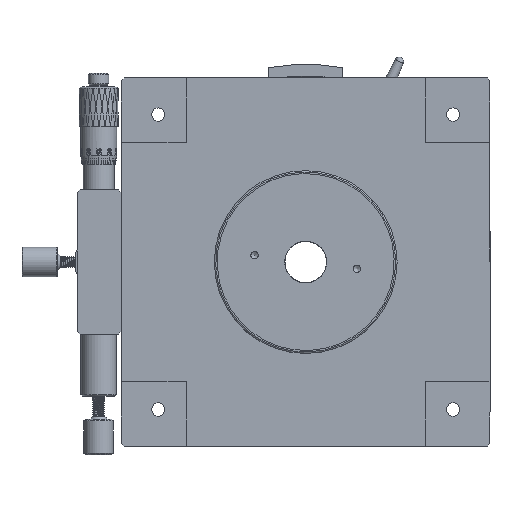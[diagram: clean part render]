
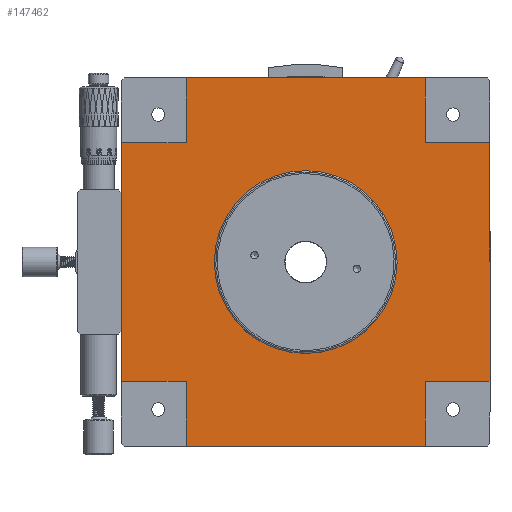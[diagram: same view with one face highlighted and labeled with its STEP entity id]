
A CAD part, front view. The second image highlights one B-rep face of the part: STEP entity #147462.
In plain terms, the highlighted planar face has unit normal (0, -1, 0).
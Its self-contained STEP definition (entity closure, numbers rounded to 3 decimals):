
#4498 = CARTESIAN_POINT ( 'NONE',  ( 0., 0.3, -31. ) ) ;
#4693 = DIRECTION ( 'NONE',  ( 0., 0., -1. ) ) ;
#5315 = VERTEX_POINT ( 'NONE', #138982 ) ;
#5565 = EDGE_LOOP ( 'NONE', ( #57266 ) ) ;
#6232 = ORIENTED_EDGE ( 'NONE', *, *, #109937, .T. ) ;
#6816 = VERTEX_POINT ( 'NONE', #48247 ) ;
#8381 = CARTESIAN_POINT ( 'NONE',  ( 0., 0.3, 0. ) ) ;
#8727 = EDGE_CURVE ( 'NONE', #65747, #97991, #74453, .T. ) ;
#8753 = CARTESIAN_POINT ( 'NONE',  ( -40.5, 0.3, -62.5 ) ) ;
#10130 = LINE ( 'NONE', #71657, #66709 ) ;
#11847 = CARTESIAN_POINT ( 'NONE',  ( 40.5, 0.3, -40.5 ) ) ;
#12995 = ORIENTED_EDGE ( 'NONE', *, *, #84332, .F. ) ;
#13456 = EDGE_CURVE ( 'NONE', #65747, #33867, #54285, .T. ) ;
#13727 = DIRECTION ( 'NONE',  ( -1., 0., 0. ) ) ;
#17344 = VECTOR ( 'NONE', #90067, 1000. ) ;
#19937 = DIRECTION ( 'NONE',  ( 0., 0., 1. ) ) ;
#21618 = DIRECTION ( 'NONE',  ( -1., 0., 0. ) ) ;
#25187 = VERTEX_POINT ( 'NONE', #70776 ) ;
#25542 = EDGE_CURVE ( 'NONE', #25187, #92154, #97154, .T. ) ;
#26892 = CARTESIAN_POINT ( 'NONE',  ( 40.5, 0.3, 62.5 ) ) ;
#28007 = EDGE_CURVE ( 'NONE', #88763, #6816, #159599, .T. ) ;
#29298 = ORIENTED_EDGE ( 'NONE', *, *, #143042, .F. ) ;
#29617 = DIRECTION ( 'NONE',  ( 1., 0., 0. ) ) ;
#31818 = DIRECTION ( 'NONE',  ( 1., 0., 0. ) ) ;
#32102 = LINE ( 'NONE', #134325, #125091 ) ;
#32348 = CARTESIAN_POINT ( 'NONE',  ( -62.5, 0.3, 62.5 ) ) ;
#33867 = VERTEX_POINT ( 'NONE', #53167 ) ;
#35206 = EDGE_CURVE ( 'NONE', #149090, #97991, #152958, .T. ) ;
#36425 = VERTEX_POINT ( 'NONE', #151790 ) ;
#36588 = DIRECTION ( 'NONE',  ( 0., 0., -1. ) ) ;
#39095 = VECTOR ( 'NONE', #84185, 1000. ) ;
#39918 = EDGE_LOOP ( 'NONE', ( #42051, #12995, #88761, #6232, #46738, #105514, #105421, #29298, #92697, #134749, #70629, #82885 ) ) ;
#40450 = FACE_OUTER_BOUND ( 'NONE', #39918, .T. ) ;
#41252 = LINE ( 'NONE', #43714, #114485 ) ;
#41266 = DIRECTION ( 'NONE',  ( 0., -1., 0. ) ) ;
#42051 = ORIENTED_EDGE ( 'NONE', *, *, #25542, .T. ) ;
#43714 = CARTESIAN_POINT ( 'NONE',  ( 40.5, 0.3, -62.5 ) ) ;
#46551 = CARTESIAN_POINT ( 'NONE',  ( -62.5, 0.3, -40.5 ) ) ;
#46715 = CARTESIAN_POINT ( 'NONE',  ( -40.5, 0.3, 40.5 ) ) ;
#46738 = ORIENTED_EDGE ( 'NONE', *, *, #142943, .F. ) ;
#48247 = CARTESIAN_POINT ( 'NONE',  ( 62.5, 0.3, 40.5 ) ) ;
#53167 = CARTESIAN_POINT ( 'NONE',  ( 40.5, 0.3, 40.5 ) ) ;
#54285 = LINE ( 'NONE', #26892, #17344 ) ;
#54718 = VECTOR ( 'NONE', #121269, 1000. ) ;
#55931 = EDGE_CURVE ( 'NONE', #25187, #149090, #10130, .T. ) ;
#56744 = CARTESIAN_POINT ( 'NONE',  ( -62.5, 0.3, -62.5 ) ) ;
#57266 = ORIENTED_EDGE ( 'NONE', *, *, #137859, .F. ) ;
#59122 = AXIS2_PLACEMENT_3D ( 'NONE', #126936, #41266, #86484 ) ;
#65146 = CARTESIAN_POINT ( 'NONE',  ( 40.5, 0.3, 62.5 ) ) ;
#65747 = VERTEX_POINT ( 'NONE', #65146 ) ;
#66228 = PLANE ( 'NONE',  #59122 ) ;
#66709 = VECTOR ( 'NONE', #160594, 1000. ) ;
#70629 = ORIENTED_EDGE ( 'NONE', *, *, #35206, .F. ) ;
#70776 = CARTESIAN_POINT ( 'NONE',  ( -62.5, 0.3, 40.5 ) ) ;
#70884 = LINE ( 'NONE', #56744, #72022 ) ;
#71657 = CARTESIAN_POINT ( 'NONE',  ( -62.5, 0.3, 40.5 ) ) ;
#72022 = VECTOR ( 'NONE', #31818, 1000. ) ;
#74453 = LINE ( 'NONE', #101015, #163908 ) ;
#81530 = VECTOR ( 'NONE', #19937, 1000. ) ;
#82885 = ORIENTED_EDGE ( 'NONE', *, *, #55931, .F. ) ;
#84185 = DIRECTION ( 'NONE',  ( 0., 0., 1. ) ) ;
#84332 = EDGE_CURVE ( 'NONE', #36425, #92154, #137128, .T. ) ;
#85330 = VECTOR ( 'NONE', #29617, 1000. ) ;
#86484 = DIRECTION ( 'NONE',  ( 0., 0., -1. ) ) ;
#86640 = LINE ( 'NONE', #150648, #39095 ) ;
#88761 = ORIENTED_EDGE ( 'NONE', *, *, #136658, .F. ) ;
#88763 = VERTEX_POINT ( 'NONE', #107736 ) ;
#90067 = DIRECTION ( 'NONE',  ( 0., 0., -1. ) ) ;
#90589 = CARTESIAN_POINT ( 'NONE',  ( -40.5, 0.3, 62.5 ) ) ;
#92154 = VERTEX_POINT ( 'NONE', #154816 ) ;
#92697 = ORIENTED_EDGE ( 'NONE', *, *, #13456, .F. ) ;
#94746 = VECTOR ( 'NONE', #141301, 1000. ) ;
#96105 = VERTEX_POINT ( 'NONE', #11847 ) ;
#97154 = LINE ( 'NONE', #32348, #54718 ) ;
#97991 = VERTEX_POINT ( 'NONE', #139167 ) ;
#101015 = CARTESIAN_POINT ( 'NONE',  ( -62.5, 0.3, 62.5 ) ) ;
#103609 = FACE_BOUND ( 'NONE', #5565, .T. ) ;
#105421 = ORIENTED_EDGE ( 'NONE', *, *, #28007, .T. ) ;
#105514 = ORIENTED_EDGE ( 'NONE', *, *, #144081, .F. ) ;
#107721 = DIRECTION ( 'NONE',  ( -1., 0., 0. ) ) ;
#107736 = CARTESIAN_POINT ( 'NONE',  ( 62.5, 0.3, -40.5 ) ) ;
#109937 = EDGE_CURVE ( 'NONE', #129055, #5315, #70884, .T. ) ;
#111538 = VECTOR ( 'NONE', #21618, 1000. ) ;
#113038 = DIRECTION ( 'NONE',  ( 0., -1., 0. ) ) ;
#114485 = VECTOR ( 'NONE', #4693, 1000. ) ;
#116206 = AXIS2_PLACEMENT_3D ( 'NONE', #8381, #113038, #36588 ) ;
#118842 = CIRCLE ( 'NONE', #116206, 31. ) ;
#120998 = CARTESIAN_POINT ( 'NONE',  ( 62.5, 0.3, 40.5 ) ) ;
#121269 = DIRECTION ( 'NONE',  ( 0., 0., -1. ) ) ;
#125091 = VECTOR ( 'NONE', #107721, 1000. ) ;
#126936 = CARTESIAN_POINT ( 'NONE',  ( 0., 0.3, 0. ) ) ;
#129055 = VERTEX_POINT ( 'NONE', #8753 ) ;
#134325 = CARTESIAN_POINT ( 'NONE',  ( 62.5, 0.3, -40.5 ) ) ;
#134749 = ORIENTED_EDGE ( 'NONE', *, *, #8727, .T. ) ;
#136658 = EDGE_CURVE ( 'NONE', #129055, #36425, #86640, .T. ) ;
#137128 = LINE ( 'NONE', #46551, #111538 ) ;
#137592 = VERTEX_POINT ( 'NONE', #4498 ) ;
#137859 = EDGE_CURVE ( 'NONE', #137592, #137592, #118842, .T. ) ;
#138982 = CARTESIAN_POINT ( 'NONE',  ( 40.5, 0.3, -62.5 ) ) ;
#139167 = CARTESIAN_POINT ( 'NONE',  ( -40.5, 0.3, 62.5 ) ) ;
#141301 = DIRECTION ( 'NONE',  ( 0., 0., 1. ) ) ;
#142943 = EDGE_CURVE ( 'NONE', #96105, #5315, #41252, .T. ) ;
#143042 = EDGE_CURVE ( 'NONE', #33867, #6816, #159267, .T. ) ;
#144081 = EDGE_CURVE ( 'NONE', #88763, #96105, #32102, .T. ) ;
#147462 = ADVANCED_FACE ( 'NONE', ( #103609, #40450 ), #66228, .T. ) ;
#149090 = VERTEX_POINT ( 'NONE', #46715 ) ;
#150648 = CARTESIAN_POINT ( 'NONE',  ( -40.5, 0.3, -62.5 ) ) ;
#151790 = CARTESIAN_POINT ( 'NONE',  ( -40.5, 0.3, -40.5 ) ) ;
#152958 = LINE ( 'NONE', #90589, #94746 ) ;
#154816 = CARTESIAN_POINT ( 'NONE',  ( -62.5, 0.3, -40.5 ) ) ;
#157124 = CARTESIAN_POINT ( 'NONE',  ( 62.5, 0.3, 62.5 ) ) ;
#159267 = LINE ( 'NONE', #120998, #85330 ) ;
#159599 = LINE ( 'NONE', #157124, #81530 ) ;
#160594 = DIRECTION ( 'NONE',  ( 1., 0., 0. ) ) ;
#163908 = VECTOR ( 'NONE', #13727, 1000. ) ;
